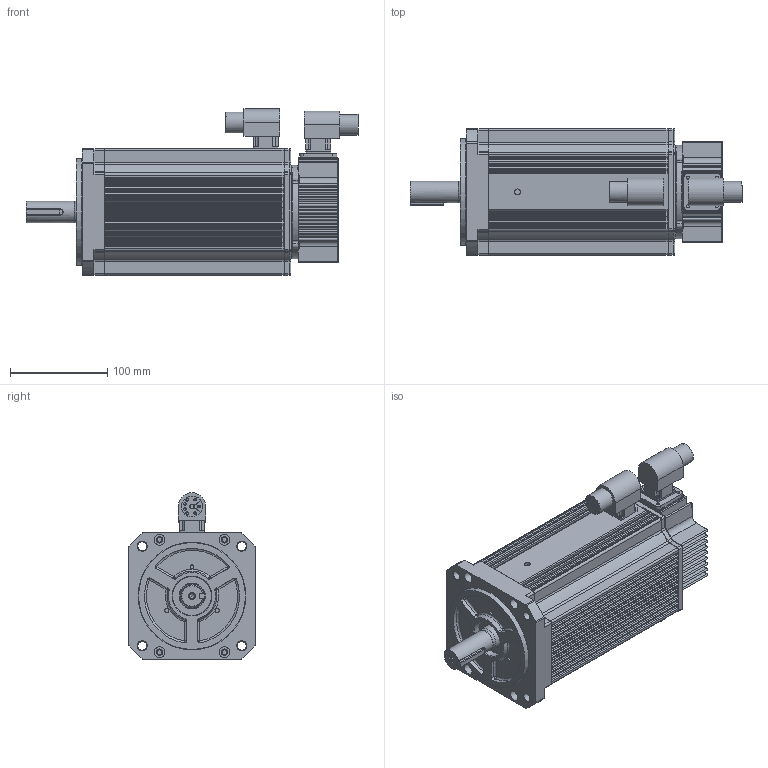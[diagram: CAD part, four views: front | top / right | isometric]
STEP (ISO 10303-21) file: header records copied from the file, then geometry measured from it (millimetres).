
FILE_DESCRIPTION( ( 'Unknown' ), '1' );
FILE_NAME( 'C:/Documents and Settings/leon/桌面/工作資料/3D型錄相關/3D組立圖(給子勤)/stp/DTSB13302B3NGAD0K & DTSB13302B-380V機種.stp', 'Unknown', ( 'Unknown' ), ( 'Unknown' ), 'PSStep 14.0', 'Unknown', ' ' );
FILE_SCHEMA( ( 'AUTOMOTIVE_DESIGN { 1 0 10303 214 1 1 1 1 }' ) );
Length unit declared in the file: millimetre
Products named in the file (14): 0S180JLB7BA0P-00; 0S331JLA0BP01-00; Assem1; 軍規(電源); 軍規(譯碼器); 1KW\X2\4EE54E0A752853F05EA\X0\; \X2\8ECD898F96326C34588A724\X0\; \X2\50C5524D7AEF542B937569FD8EF\X0\; \X2\51F8625867B\X0\; \X2\625867B\X0\; \X2\4FDD84CB96326C34588\X0\; \X2\4FDD84C\X0\; \X2\937\X0\
Assembly tree (13 placements, depth 3):
  Assem1
    軍規(電源)
    軍規(譯碼器)
    1KW\X2\4EE54E0A752853F05EA\X0\
    \X2\8ECD898F96326C34588A724\X0\
    \X2\50C5524D7AEF542B937569FD8EF\X0\
    \X2\51F8625867B\X0\
    \X2\51F8625867B\X0\
    \X2\625867B\X0\
    \X2\4FDD84CB96326C34588\X0\
    \X2\4FDD84C\X0\
    \X2\937\X0\
    0S180JLB7BA0P-00
      0S331JLA0BP01-00
Bounding box: 341.9 x 130.4 x 171.6 mm (x, y, z)
Volume: 3814390.3 mm3; surface area: 390919.6 mm2
Topology: 12 solids, 15 shells, 1405 faces, 3567 edges, 2242 vertices
Faces by surface type: cylinder 644, plane 510, torus 157, cone 59, sphere 28, bspline 7
Full cylindrical faces by diameter (mm): 1.5 x17, 1.926 x2, 1.985 x1, 2.013 x4, 2.459 x4, 2.5 x4, 2.585 x2, 2.611 x2, 2.621 x4, 2.637 x1, 2.7 x8, 2.834 x2, 3 x4, 3.25 x4, 3.5 x4, 3.746 x1, 4 x3, 5 x9, 6 x1, 6.2 x1, 6.5 x8, 9 x4, 11 x4, 20 x2, 21.5 x2, 22 x1, 24 x1, 24.9 x1, 40 x1, 52 x1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
Entity records: 53266 total; most frequent: CARTESIAN_POINT 7771, DIRECTION 7655, ORIENTED_EDGE 6676, EDGE_CURVE 3338, AXIS2_PLACEMENT_3D 3012, VERTEX_POINT 2183, EDGE_LOOP 1686, LINE 1631
